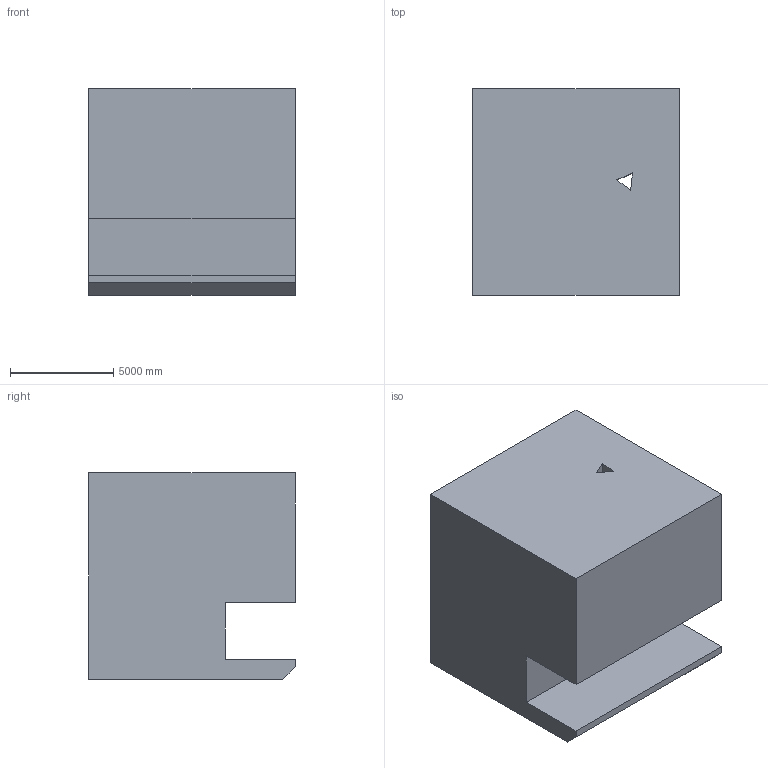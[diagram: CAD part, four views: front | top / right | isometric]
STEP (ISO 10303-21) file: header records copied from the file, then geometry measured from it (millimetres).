
FILE_DESCRIPTION (( 'STEP AP203' ), '1' );
FILE_NAME ('128.STEP', '2022-09-06T15:09:17', ( 'user' ), ( '' ), 'SwSTEP 2.0', 'SolidWorks 2021', '' );
FILE_SCHEMA (( 'CONFIG_CONTROL_DESIGN' ));
Length unit declared in the file: centimetre
Products named in the file (1): 128
Bounding box: 10000 x 10000 x 10000 mm (x, y, z)
Volume: 901869809206.9 mm3; surface area: 669854362.5 mm2
Topology: 1 solids, 1 shells, 14 faces, 36 edges, 24 vertices
Faces by surface type: plane 14
Entity records: 501 total; most frequent: CARTESIAN_POINT 75, ORIENTED_EDGE 72, DIRECTION 66, VECTOR 36, EDGE_CURVE 36, LINE 36, VERTEX_POINT 24, EDGE_LOOP 16
